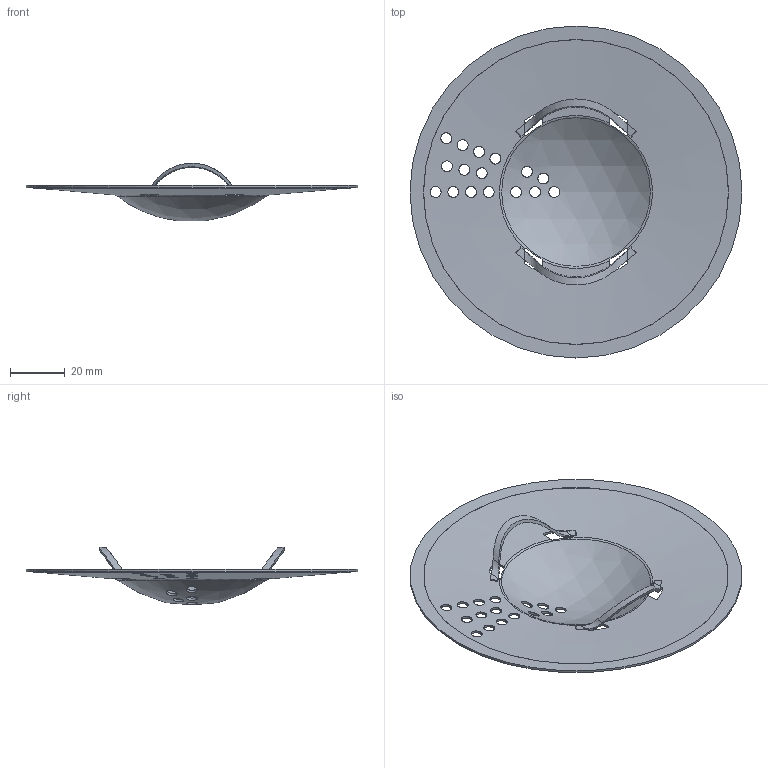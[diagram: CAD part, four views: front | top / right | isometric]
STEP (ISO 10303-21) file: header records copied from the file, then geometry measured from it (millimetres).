
FILE_DESCRIPTION(/* description */ (''),/* implementation_level */ '2;1');
FILE_NAME(/* name */ 'C:\Planerdaten\Export PLA\388.105.00.1\stp\388105.stp',/* time_stamp */ '2022-08-31T08:00:47+02:00',/* author */ ('JANAN'),/* organization */ (''),/* preprocessor_version */ 'ST-DEVELOPER v18.1',/* originating_system */ 'Autodesk Inventor 2021',/* authorisation */ '');
FILE_SCHEMA (('AUTOMOTIVE_DESIGN { 1 0 10303 214 3 1 1 }'));
Length unit declared in the file: millimetre
Products named in the file (1): tmpDF6A.tmp
Bounding box: 121.8 x 121.8 x 21.14 mm (x, y, z)
Volume: 9577.5 mm3; surface area: 24513.9 mm2
Topology: 1 solids, 1 shells, 99 faces, 353 edges, 244 vertices
Faces by surface type: cylinder 61, bspline 20, cone 8, torus 4, plane 4, sphere 2
Full cylindrical faces by diameter (mm): 4 x16, 121.8 x1
Entity records: 6221 total; most frequent: CARTESIAN_POINT 3331, ORIENTED_EDGE 706, DIRECTION 405, EDGE_CURVE 353, VERTEX_POINT 244, B_SPLINE_CURVE_WITH_KNOTS 192, AXIS2_PLACEMENT_3D 164, EDGE_LOOP 131
